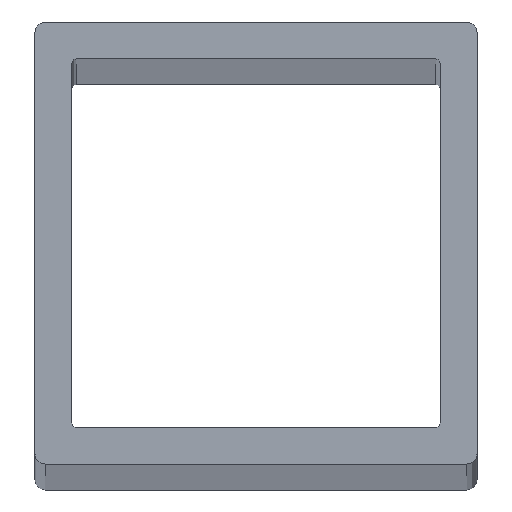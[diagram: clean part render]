
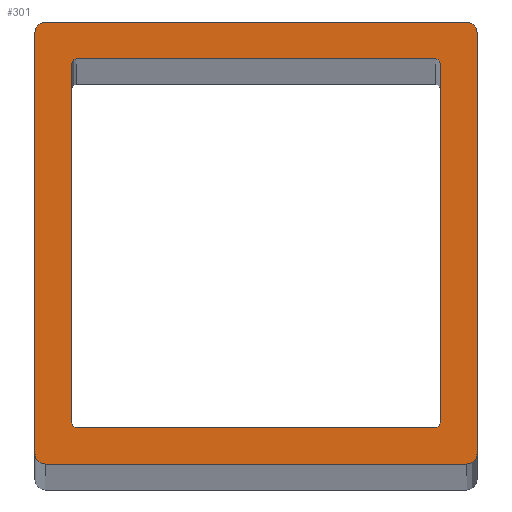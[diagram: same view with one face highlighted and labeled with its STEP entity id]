
A CAD part, top view. The second image highlights one B-rep face of the part: STEP entity #301.
In plain terms, the highlighted planar face has unit normal (0, 0, 1).
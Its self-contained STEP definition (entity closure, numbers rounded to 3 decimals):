
#3 = ORIENTED_EDGE ( 'NONE', *, *, #177, .F. ) ;
#4 = CARTESIAN_POINT ( 'NONE',  ( 12.2, -12.2, 1000. ) ) ;
#15 = VERTEX_POINT ( 'NONE', #581 ) ;
#23 = CIRCLE ( 'NONE', #370, 0.3 ) ;
#36 = CARTESIAN_POINT ( 'NONE',  ( -14.3, -15., 1000. ) ) ;
#44 = VERTEX_POINT ( 'NONE', #348 ) ;
#46 = CARTESIAN_POINT ( 'NONE',  ( 12.5, -12.2, 1000. ) ) ;
#48 = CIRCLE ( 'NONE', #417, 0.3 ) ;
#49 = ORIENTED_EDGE ( 'NONE', *, *, #430, .T. ) ;
#50 = DIRECTION ( 'NONE',  ( -1., 0., 0. ) ) ;
#51 = DIRECTION ( 'NONE',  ( -1., 0., 0. ) ) ;
#53 = EDGE_CURVE ( 'NONE', #446, #439, #106, .T. ) ;
#54 = ORIENTED_EDGE ( 'NONE', *, *, #438, .T. ) ;
#56 = CARTESIAN_POINT ( 'NONE',  ( -12.2, 12.5, 1000. ) ) ;
#62 = VERTEX_POINT ( 'NONE', #36 ) ;
#69 = VERTEX_POINT ( 'NONE', #300 ) ;
#83 = VECTOR ( 'NONE', #547, 1000. ) ;
#85 = CARTESIAN_POINT ( 'NONE',  ( -12.5, -12.5, 1000. ) ) ;
#89 = EDGE_CURVE ( 'NONE', #123, #216, #593, .T. ) ;
#91 = CARTESIAN_POINT ( 'NONE',  ( 14.3, 14.3, 1000. ) ) ;
#92 = ORIENTED_EDGE ( 'NONE', *, *, #346, .T. ) ;
#96 = DIRECTION ( 'NONE',  ( 0., 0., 1. ) ) ;
#101 = CARTESIAN_POINT ( 'NONE',  ( -14.3, -14.3, 1000. ) ) ;
#102 = DIRECTION ( 'NONE',  ( 0., 0., 1. ) ) ;
#106 = LINE ( 'NONE', #528, #83 ) ;
#109 = ORIENTED_EDGE ( 'NONE', *, *, #580, .T. ) ;
#110 = DIRECTION ( 'NONE',  ( 0., 0., -1. ) ) ;
#114 = CARTESIAN_POINT ( 'NONE',  ( 12.2, 12.5, 1000. ) ) ;
#116 = ORIENTED_EDGE ( 'NONE', *, *, #381, .T. ) ;
#123 = VERTEX_POINT ( 'NONE', #256 ) ;
#127 = VECTOR ( 'NONE', #555, 1000. ) ;
#130 = EDGE_LOOP ( 'NONE', ( #271, #610, #541, #408, #490, #92, #109, #116 ) ) ;
#142 = EDGE_CURVE ( 'NONE', #15, #238, #437, .T. ) ;
#159 = LINE ( 'NONE', #451, #531 ) ;
#160 = ORIENTED_EDGE ( 'NONE', *, *, #142, .F. ) ;
#177 = EDGE_CURVE ( 'NONE', #248, #44, #159, .T. ) ;
#178 = DIRECTION ( 'NONE',  ( 0., 1., 0. ) ) ;
#181 = DIRECTION ( 'NONE',  ( 0., -1., 0. ) ) ;
#182 = FACE_OUTER_BOUND ( 'NONE', #130, .T. ) ;
#184 = DIRECTION ( 'NONE',  ( -1., 0., 0. ) ) ;
#188 = CARTESIAN_POINT ( 'NONE',  ( 0., 0., 1000. ) ) ;
#190 = CARTESIAN_POINT ( 'NONE',  ( 15., 14.3, 1000. ) ) ;
#198 = AXIS2_PLACEMENT_3D ( 'NONE', #468, #102, #50 ) ;
#203 = CARTESIAN_POINT ( 'NONE',  ( -12.2, 12.2, 1000. ) ) ;
#209 = CARTESIAN_POINT ( 'NONE',  ( -15., -15., 1000. ) ) ;
#212 = LINE ( 'NONE', #398, #513 ) ;
#216 = VERTEX_POINT ( 'NONE', #461 ) ;
#217 = CARTESIAN_POINT ( 'NONE',  ( 14.3, 15., 1000. ) ) ;
#220 = EDGE_CURVE ( 'NONE', #446, #44, #464, .T. ) ;
#225 = AXIS2_PLACEMENT_3D ( 'NONE', #188, #414, #184 ) ;
#226 = DIRECTION ( 'NONE',  ( -1., 0., 0. ) ) ;
#227 = CARTESIAN_POINT ( 'NONE',  ( -15., -14.3, 1000. ) ) ;
#234 = CARTESIAN_POINT ( 'NONE',  ( -15., 15., 1000. ) ) ;
#235 = AXIS2_PLACEMENT_3D ( 'NONE', #402, #498, #305 ) ;
#238 = VERTEX_POINT ( 'NONE', #267 ) ;
#239 = ORIENTED_EDGE ( 'NONE', *, *, #400, .T. ) ;
#241 = EDGE_CURVE ( 'NONE', #345, #543, #261, .T. ) ;
#248 = VERTEX_POINT ( 'NONE', #46 ) ;
#249 = EDGE_CURVE ( 'NONE', #543, #392, #315, .T. ) ;
#256 = CARTESIAN_POINT ( 'NONE',  ( 14.3, -15., 1000. ) ) ;
#260 = DIRECTION ( 'NONE',  ( -1., 0., 0. ) ) ;
#261 = CIRCLE ( 'NONE', #527, 0.7 ) ;
#266 = VERTEX_POINT ( 'NONE', #418 ) ;
#267 = CARTESIAN_POINT ( 'NONE',  ( 12.2, -12.5, 1000. ) ) ;
#271 = ORIENTED_EDGE ( 'NONE', *, *, #293, .T. ) ;
#273 = DIRECTION ( 'NONE',  ( -1., 0., 0. ) ) ;
#280 = AXIS2_PLACEMENT_3D ( 'NONE', #101, #96, #273 ) ;
#284 = EDGE_CURVE ( 'NONE', #216, #345, #618, .T. ) ;
#287 = DIRECTION ( 'NONE',  ( -1., 0., 0. ) ) ;
#288 = CIRCLE ( 'NONE', #198, 0.7 ) ;
#293 = EDGE_CURVE ( 'NONE', #62, #123, #433, .T. ) ;
#297 = VECTOR ( 'NONE', #491, 1000. ) ;
#300 = CARTESIAN_POINT ( 'NONE',  ( -15., 14.3, 1000. ) ) ;
#301 = ADVANCED_FACE ( 'NONE', ( #182, #419 ), #509, .F. ) ;
#305 = DIRECTION ( 'NONE',  ( -1., 0., 0. ) ) ;
#315 = LINE ( 'NONE', #234, #583 ) ;
#316 = AXIS2_PLACEMENT_3D ( 'NONE', #510, #609, #260 ) ;
#318 = DIRECTION ( 'NONE',  ( 0., 0., 1. ) ) ;
#325 = VERTEX_POINT ( 'NONE', #227 ) ;
#326 = EDGE_LOOP ( 'NONE', ( #507, #49, #562, #334, #3, #239, #160, #54 ) ) ;
#329 = DIRECTION ( 'NONE',  ( 0., 0., -1. ) ) ;
#334 = ORIENTED_EDGE ( 'NONE', *, *, #220, .T. ) ;
#345 = VERTEX_POINT ( 'NONE', #190 ) ;
#346 = EDGE_CURVE ( 'NONE', #392, #69, #288, .T. ) ;
#348 = CARTESIAN_POINT ( 'NONE',  ( 12.5, 12.2, 1000. ) ) ;
#370 = AXIS2_PLACEMENT_3D ( 'NONE', #203, #584, #526 ) ;
#371 = VERTEX_POINT ( 'NONE', #428 ) ;
#379 = CARTESIAN_POINT ( 'NONE',  ( -14.3, 15., 1000. ) ) ;
#381 = EDGE_CURVE ( 'NONE', #325, #62, #525, .T. ) ;
#392 = VERTEX_POINT ( 'NONE', #379 ) ;
#398 = CARTESIAN_POINT ( 'NONE',  ( -12.5, -12.5, 1000. ) ) ;
#400 = EDGE_CURVE ( 'NONE', #248, #238, #48, .T. ) ;
#402 = CARTESIAN_POINT ( 'NONE',  ( 14.3, -14.3, 1000. ) ) ;
#408 = ORIENTED_EDGE ( 'NONE', *, *, #241, .T. ) ;
#414 = DIRECTION ( 'NONE',  ( 0., 0., -1. ) ) ;
#416 = CARTESIAN_POINT ( 'NONE',  ( -15., -15., 1000. ) ) ;
#417 = AXIS2_PLACEMENT_3D ( 'NONE', #4, #329, #51 ) ;
#418 = CARTESIAN_POINT ( 'NONE',  ( -12.5, -12.2, 1000. ) ) ;
#419 = FACE_BOUND ( 'NONE', #326, .T. ) ;
#426 = VECTOR ( 'NONE', #458, 1000. ) ;
#428 = CARTESIAN_POINT ( 'NONE',  ( -12.5, 12.2, 1000. ) ) ;
#430 = EDGE_CURVE ( 'NONE', #371, #439, #23, .T. ) ;
#433 = LINE ( 'NONE', #416, #426 ) ;
#437 = LINE ( 'NONE', #85, #297 ) ;
#438 = EDGE_CURVE ( 'NONE', #15, #266, #445, .T. ) ;
#439 = VERTEX_POINT ( 'NONE', #56 ) ;
#445 = CIRCLE ( 'NONE', #615, 0.3 ) ;
#446 = VERTEX_POINT ( 'NONE', #114 ) ;
#451 = CARTESIAN_POINT ( 'NONE',  ( 12.5, -12.5, 1000. ) ) ;
#458 = DIRECTION ( 'NONE',  ( 1., 0., 0. ) ) ;
#461 = CARTESIAN_POINT ( 'NONE',  ( 15., -14.3, 1000. ) ) ;
#464 = CIRCLE ( 'NONE', #316, 0.3 ) ;
#468 = CARTESIAN_POINT ( 'NONE',  ( -14.3, 14.3, 1000. ) ) ;
#475 = VECTOR ( 'NONE', #501, 1000. ) ;
#490 = ORIENTED_EDGE ( 'NONE', *, *, #249, .T. ) ;
#491 = DIRECTION ( 'NONE',  ( 1., 0., 0. ) ) ;
#498 = DIRECTION ( 'NONE',  ( 0., 0., 1. ) ) ;
#501 = DIRECTION ( 'NONE',  ( 0., -1., 0. ) ) ;
#507 = ORIENTED_EDGE ( 'NONE', *, *, #590, .F. ) ;
#509 = PLANE ( 'NONE',  #225 ) ;
#510 = CARTESIAN_POINT ( 'NONE',  ( 12.2, 12.2, 1000. ) ) ;
#511 = DIRECTION ( 'NONE',  ( -1., 0., 0. ) ) ;
#513 = VECTOR ( 'NONE', #181, 1000. ) ;
#525 = CIRCLE ( 'NONE', #280, 0.7 ) ;
#526 = DIRECTION ( 'NONE',  ( -1., 0., 0. ) ) ;
#527 = AXIS2_PLACEMENT_3D ( 'NONE', #91, #318, #511 ) ;
#528 = CARTESIAN_POINT ( 'NONE',  ( -12.5, 12.5, 1000. ) ) ;
#531 = VECTOR ( 'NONE', #178, 1000. ) ;
#537 = LINE ( 'NONE', #209, #475 ) ;
#541 = ORIENTED_EDGE ( 'NONE', *, *, #284, .T. ) ;
#543 = VERTEX_POINT ( 'NONE', #217 ) ;
#547 = DIRECTION ( 'NONE',  ( -1., 0., 0. ) ) ;
#553 = CARTESIAN_POINT ( 'NONE',  ( 15., -15., 1000. ) ) ;
#555 = DIRECTION ( 'NONE',  ( 0., 1., 0. ) ) ;
#562 = ORIENTED_EDGE ( 'NONE', *, *, #53, .F. ) ;
#579 = CARTESIAN_POINT ( 'NONE',  ( -12.2, -12.2, 1000. ) ) ;
#580 = EDGE_CURVE ( 'NONE', #69, #325, #537, .T. ) ;
#581 = CARTESIAN_POINT ( 'NONE',  ( -12.2, -12.5, 1000. ) ) ;
#583 = VECTOR ( 'NONE', #226, 1000. ) ;
#584 = DIRECTION ( 'NONE',  ( 0., 0., -1. ) ) ;
#590 = EDGE_CURVE ( 'NONE', #371, #266, #212, .T. ) ;
#593 = CIRCLE ( 'NONE', #235, 0.7 ) ;
#609 = DIRECTION ( 'NONE',  ( 0., 0., -1. ) ) ;
#610 = ORIENTED_EDGE ( 'NONE', *, *, #89, .T. ) ;
#615 = AXIS2_PLACEMENT_3D ( 'NONE', #579, #110, #287 ) ;
#618 = LINE ( 'NONE', #553, #127 ) ;
